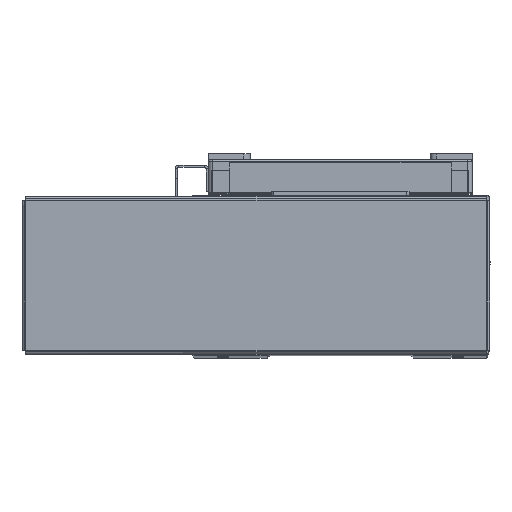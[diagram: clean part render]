
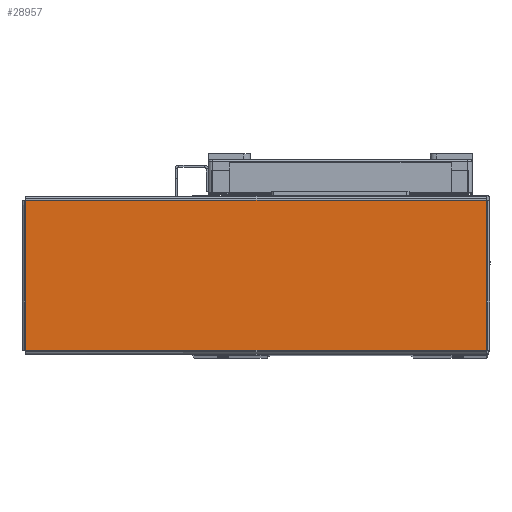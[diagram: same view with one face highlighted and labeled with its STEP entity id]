
A CAD part, top view. The second image highlights one B-rep face of the part: STEP entity #28957.
In plain terms, the highlighted planar face has unit normal (0, 0, 1) as drawn and (0, -1, 0) by its records, which use the part's own axes.
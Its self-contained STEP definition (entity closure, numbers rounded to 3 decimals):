
#4967 = ORIENTED_EDGE ( 'NONE', *, *, #20025, .T. ) ;
#4976 = ORIENTED_EDGE ( 'NONE', *, *, #19976, .T. ) ;
#5021 = ORIENTED_EDGE ( 'NONE', *, *, #20030, .T. ) ;
#5030 = ORIENTED_EDGE ( 'NONE', *, *, #19961, .T. ) ;
#8077 = AXIS2_PLACEMENT_3D ( 'NONE', #40587, #40595, #40596 ) ;
#11344 = LINE ( 'NONE', #13302, #11362 ) ;
#11362 = VECTOR ( 'NONE', #13266, 1000. ) ;
#11369 = LINE ( 'NONE', #13346, #11393 ) ;
#11393 = VECTOR ( 'NONE', #13321, 1000. ) ;
#11408 = LINE ( 'NONE', #13382, #11429 ) ;
#11421 = LINE ( 'NONE', #13357, #11426 ) ;
#11426 = VECTOR ( 'NONE', #13380, 1000. ) ;
#11429 = VECTOR ( 'NONE', #13385, 1000. ) ;
#13266 = DIRECTION ( 'NONE',  ( 0., 0., -1. ) ) ;
#13302 = CARTESIAN_POINT ( 'NONE',  ( -103.763, -1., 33.793 ) ) ;
#13321 = DIRECTION ( 'NONE',  ( 0., 0., 1. ) ) ;
#13346 = CARTESIAN_POINT ( 'NONE',  ( 103.763, -1., -33.793 ) ) ;
#13357 = CARTESIAN_POINT ( 'NONE',  ( 103.793, -1., 33.763 ) ) ;
#13380 = DIRECTION ( 'NONE',  ( -1., 0., 0. ) ) ;
#13382 = CARTESIAN_POINT ( 'NONE',  ( -103.793, -1., -33.763 ) ) ;
#13385 = DIRECTION ( 'NONE',  ( 1., 0., 0. ) ) ;
#19921 = EDGE_LOOP ( 'NONE', ( #5021, #5030, #4967, #4976 ) ) ;
#19961 = EDGE_CURVE ( 'NONE', #61975, #24859, #11344, .T. ) ;
#19976 = EDGE_CURVE ( 'NONE', #24870, #24921, #11369, .T. ) ;
#20025 = EDGE_CURVE ( 'NONE', #24859, #24870, #11408, .T. ) ;
#20030 = EDGE_CURVE ( 'NONE', #24921, #61975, #11421, .T. ) ;
#24859 = VERTEX_POINT ( 'NONE', #38570 ) ;
#24870 = VERTEX_POINT ( 'NONE', #38517 ) ;
#24921 = VERTEX_POINT ( 'NONE', #38589 ) ;
#28957 = ADVANCED_FACE ( 'NONE', ( #39618 ), #40592, .F. ) ;
#38517 = CARTESIAN_POINT ( 'NONE',  ( 103.763, -1., -33.763 ) ) ;
#38570 = CARTESIAN_POINT ( 'NONE',  ( -103.763, -1., -33.763 ) ) ;
#38589 = CARTESIAN_POINT ( 'NONE',  ( 103.763, -1., 33.763 ) ) ;
#39618 = FACE_OUTER_BOUND ( 'NONE', #19921, .T. ) ;
#40587 = CARTESIAN_POINT ( 'NONE',  ( 0., -1., 0. ) ) ;
#40592 = PLANE ( 'NONE',  #8077 ) ;
#40595 = DIRECTION ( 'NONE',  ( 0., 1., 0. ) ) ;
#40596 = DIRECTION ( 'NONE',  ( 0., 0., 1. ) ) ;
#59944 = CARTESIAN_POINT ( 'NONE',  ( -103.763, -1., 33.763 ) ) ;
#61975 = VERTEX_POINT ( 'NONE', #59944 ) ;
